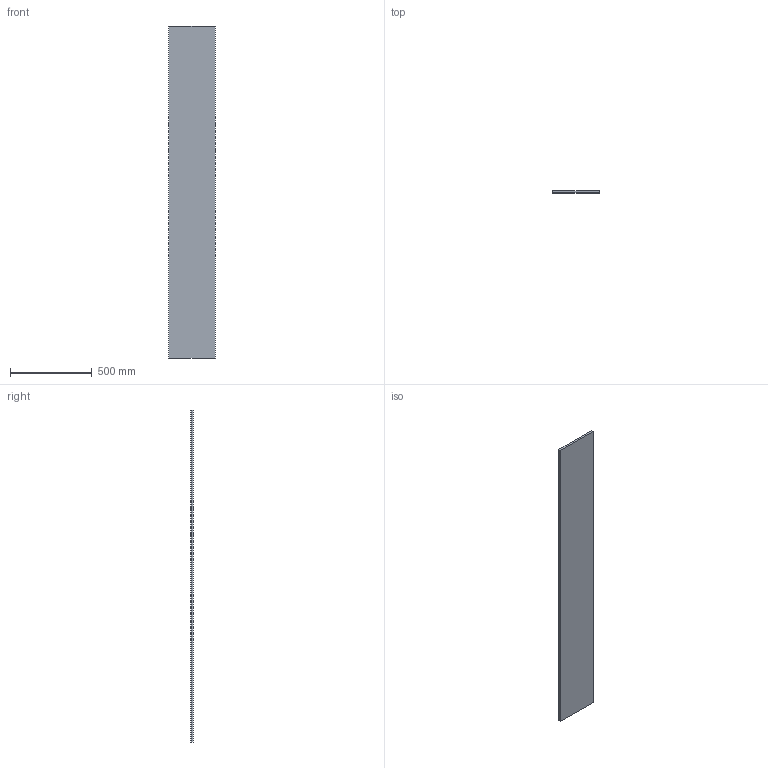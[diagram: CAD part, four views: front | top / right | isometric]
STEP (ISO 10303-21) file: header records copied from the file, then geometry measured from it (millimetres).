
FILE_DESCRIPTION((''),'2;1');
FILE_NAME('E:\Markus Voss\58002-12 aMbooo signature facia board\58002-12.stp','2020-03-01T15:18:11',('kamrowski'),(''),'Autodesk Inventor 2013','Autodesk Inventor 2013','');
FILE_SCHEMA(('AUTOMOTIVE_DESIGN { 1 0 10303 214 1 1 1 1 }'));
Length unit declared in the file: millimetre
Products named in the file (1): 58002-12
Bounding box: 286 x 12.7 x 2032 mm (x, y, z)
Volume: 7377141.8 mm3; surface area: 1217689.2 mm2
Topology: 1 solids, 1 shells, 8 faces, 18 edges, 12 vertices
Faces by surface type: plane 6, cylinder 2
Entity records: 252 total; most frequent: DIRECTION 40, CARTESIAN_POINT 39, ORIENTED_EDGE 36, EDGE_CURVE 18, VECTOR 14, LINE 14, AXIS2_PLACEMENT_3D 13, VERTEX_POINT 12
